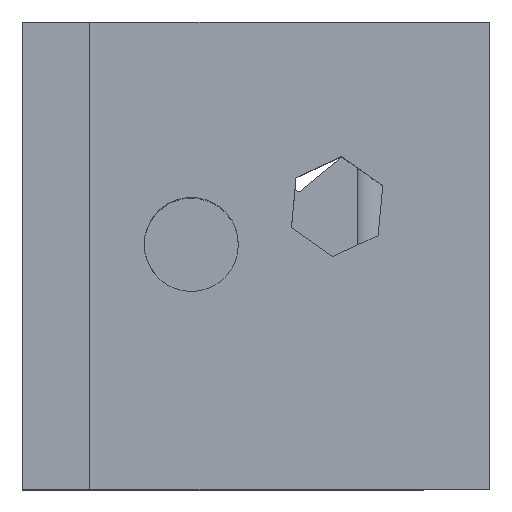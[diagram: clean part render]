
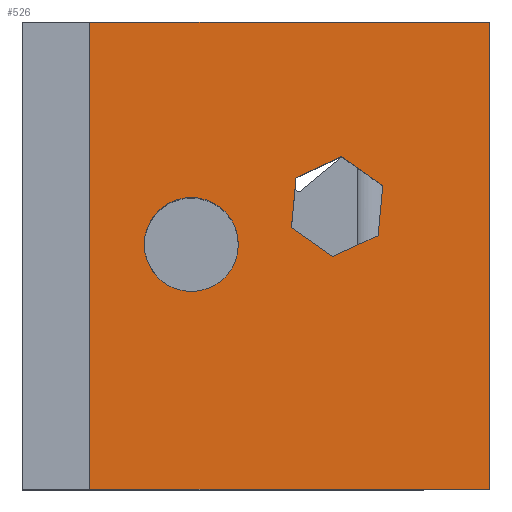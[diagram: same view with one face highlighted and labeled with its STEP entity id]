
A CAD part, top view. The second image highlights one B-rep face of the part: STEP entity #526.
In plain terms, the highlighted planar face has unit normal (0, 0, 1).
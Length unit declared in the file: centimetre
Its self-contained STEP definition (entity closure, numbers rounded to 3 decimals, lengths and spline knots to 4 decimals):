
#4 = EDGE_CURVE ( 'NONE', #1023, #1050, #1174, .T. ) ;
#6 = EDGE_CURVE ( 'NONE', #837, #683, #1181, .T. ) ;
#12 = CIRCLE ( 'NONE', #1061, 100.6563 ) ;
#32 = EDGE_CURVE ( 'NONE', #558, #1023, #86, .T. ) ;
#33 = DIRECTION ( 'NONE',  ( 0., -1., 0. ) ) ;
#58 = EDGE_CURVE ( 'NONE', #598, #870, #95, .T. ) ;
#60 = DIRECTION ( 'NONE',  ( -0.816, 0.578, 0. ) ) ;
#86 = LINE ( 'NONE', #1242, #716 ) ;
#88 = EDGE_CURVE ( 'NONE', #683, #311, #235, .T. ) ;
#95 = LINE ( 'NONE', #1326, #1066 ) ;
#137 = VECTOR ( 'NONE', #1764, 100. ) ;
#141 = VERTEX_POINT ( 'NONE', #786 ) ;
#163 = CARTESIAN_POINT ( 'NONE',  ( 361.5271, 523.8013, 1000. ) ) ;
#182 = DIRECTION ( 'NONE',  ( -0.908, -0.418, 0. ) ) ;
#188 = ORIENTED_EDGE ( 'NONE', *, *, #403, .F. ) ;
#209 = CARTESIAN_POINT ( 'NONE',  ( 575.8645, 560.0563, 1000. ) ) ;
#219 = DIRECTION ( 'NONE',  ( 0., 0., 1. ) ) ;
#235 = LINE ( 'NONE', #1044, #1706 ) ;
#273 = ORIENTED_EDGE ( 'NONE', *, *, #58, .F. ) ;
#274 = DIRECTION ( 'NONE',  ( 0., 1., 0. ) ) ;
#282 = CARTESIAN_POINT ( 'NONE',  ( 144.2003, 1000., 1000. ) ) ;
#304 = CARTESIAN_POINT ( 'NONE',  ( 1000., 1000., 1000. ) ) ;
#311 = VERTEX_POINT ( 'NONE', #605 ) ;
#314 = ORIENTED_EDGE ( 'NONE', *, *, #1802, .F. ) ;
#319 = ORIENTED_EDGE ( 'NONE', *, *, #32, .T. ) ;
#323 = VECTOR ( 'NONE', #1556, 100. ) ;
#330 = CARTESIAN_POINT ( 'NONE',  ( 663.6808, 497.8867, 1000. ) ) ;
#367 = DIRECTION ( 'NONE',  ( -1., 0., 0. ) ) ;
#372 = LINE ( 'NONE', #953, #895 ) ;
#403 = EDGE_CURVE ( 'NONE', #141, #778, #1856, .T. ) ;
#407 = CARTESIAN_POINT ( 'NONE',  ( 585.7969, 667.1922, 1000. ) ) ;
#457 = CARTESIAN_POINT ( 'NONE',  ( 462.1834, 523.8013, 1000. ) ) ;
#483 = DIRECTION ( 'NONE',  ( 0., 0., 1. ) ) ;
#488 = ORIENTED_EDGE ( 'NONE', *, *, #1010, .F. ) ;
#526 = ADVANCED_FACE ( 'NONE', ( #776, #936, #1634 ), #1506, .T. ) ;
#530 = AXIS2_PLACEMENT_3D ( 'NONE', #163, #1298, #761 ) ;
#558 = VERTEX_POINT ( 'NONE', #304 ) ;
#577 = EDGE_CURVE ( 'NONE', #311, #1733, #730, .T. ) ;
#586 = VERTEX_POINT ( 'NONE', #593 ) ;
#593 = CARTESIAN_POINT ( 'NONE',  ( 1000., 0., 1000. ) ) ;
#598 = VERTEX_POINT ( 'NONE', #1699 ) ;
#599 = VECTOR ( 'NONE', #1335, 100. ) ;
#605 = CARTESIAN_POINT ( 'NONE',  ( 761.4294, 542.8531, 1000. ) ) ;
#676 = ORIENTED_EDGE ( 'NONE', *, *, #577, .F. ) ;
#683 = VERTEX_POINT ( 'NONE', #330 ) ;
#716 = VECTOR ( 'NONE', #367, 100. ) ;
#730 = LINE ( 'NONE', #1723, #1700 ) ;
#740 = ORIENTED_EDGE ( 'NONE', *, *, #6, .F. ) ;
#747 = EDGE_LOOP ( 'NONE', ( #676, #1359, #740, #488, #273, #314 ) ) ;
#749 = EDGE_CURVE ( 'NONE', #1050, #586, #1617, .T. ) ;
#761 = DIRECTION ( 'NONE',  ( 1., 0., 0. ) ) ;
#776 = FACE_OUTER_BOUND ( 'NONE', #940, .T. ) ;
#778 = VERTEX_POINT ( 'NONE', #457 ) ;
#782 = CARTESIAN_POINT ( 'NONE',  ( 361.5271, 523.8013, 1000. ) ) ;
#786 = CARTESIAN_POINT ( 'NONE',  ( 260.8707, 523.8013, 1000. ) ) ;
#837 = VERTEX_POINT ( 'NONE', #209 ) ;
#838 = EDGE_CURVE ( 'NONE', #778, #141, #12, .T. ) ;
#868 = DIRECTION ( 'NONE',  ( 0.092, 0.996, 0. ) ) ;
#870 = VERTEX_POINT ( 'NONE', #1819 ) ;
#895 = VECTOR ( 'NONE', #60, 100. ) ;
#903 = CARTESIAN_POINT ( 'NONE',  ( 0., 0., 1000. ) ) ;
#936 = FACE_BOUND ( 'NONE', #747, .T. ) ;
#940 = EDGE_LOOP ( 'NONE', ( #1273, #1772, #1259, #319 ) ) ;
#947 = DIRECTION ( 'NONE',  ( 0.908, 0.418, 0. ) ) ;
#953 = CARTESIAN_POINT ( 'NONE',  ( 771.3617, 649.989, 1000. ) ) ;
#981 = LINE ( 'NONE', #407, #323 ) ;
#983 = CARTESIAN_POINT ( 'NONE',  ( 1000., 1000., 1000. ) ) ;
#1010 = EDGE_CURVE ( 'NONE', #870, #837, #981, .T. ) ;
#1023 = VERTEX_POINT ( 'NONE', #282 ) ;
#1044 = CARTESIAN_POINT ( 'NONE',  ( 663.6808, 497.8867, 1000. ) ) ;
#1050 = VERTEX_POINT ( 'NONE', #1837 ) ;
#1061 = AXIS2_PLACEMENT_3D ( 'NONE', #782, #483, #1346 ) ;
#1062 = CARTESIAN_POINT ( 'NONE',  ( 0., 0., 1000. ) ) ;
#1066 = VECTOR ( 'NONE', #182, 100. ) ;
#1079 = EDGE_LOOP ( 'NONE', ( #1251, #188 ) ) ;
#1166 = CARTESIAN_POINT ( 'NONE',  ( 771.3617, 649.989, 1000. ) ) ;
#1174 = LINE ( 'NONE', #1324, #1851 ) ;
#1181 = LINE ( 'NONE', #1761, #137 ) ;
#1242 = CARTESIAN_POINT ( 'NONE',  ( 0., 1000., 1000. ) ) ;
#1251 = ORIENTED_EDGE ( 'NONE', *, *, #838, .F. ) ;
#1257 = EDGE_CURVE ( 'NONE', #586, #558, #1840, .T. ) ;
#1259 = ORIENTED_EDGE ( 'NONE', *, *, #1257, .T. ) ;
#1273 = ORIENTED_EDGE ( 'NONE', *, *, #4, .T. ) ;
#1274 = VECTOR ( 'NONE', #274, 100. ) ;
#1298 = DIRECTION ( 'NONE',  ( 0., 0., 1. ) ) ;
#1302 = AXIS2_PLACEMENT_3D ( 'NONE', #1062, #219, #1642 ) ;
#1324 = CARTESIAN_POINT ( 'NONE',  ( 144.2003, 1000., 1000. ) ) ;
#1326 = CARTESIAN_POINT ( 'NONE',  ( 683.5454, 712.1586, 1000. ) ) ;
#1335 = DIRECTION ( 'NONE',  ( 1., 0., 0. ) ) ;
#1346 = DIRECTION ( 'NONE',  ( 1., 0., 0. ) ) ;
#1359 = ORIENTED_EDGE ( 'NONE', *, *, #88, .F. ) ;
#1506 = PLANE ( 'NONE',  #1302 ) ;
#1556 = DIRECTION ( 'NONE',  ( -0.092, -0.996, 0. ) ) ;
#1617 = LINE ( 'NONE', #903, #599 ) ;
#1634 = FACE_BOUND ( 'NONE', #1079, .T. ) ;
#1642 = DIRECTION ( 'NONE',  ( 1., 0., 0. ) ) ;
#1699 = CARTESIAN_POINT ( 'NONE',  ( 683.5454, 712.1586, 1000. ) ) ;
#1700 = VECTOR ( 'NONE', #868, 100. ) ;
#1706 = VECTOR ( 'NONE', #947, 100. ) ;
#1723 = CARTESIAN_POINT ( 'NONE',  ( 761.4294, 542.8531, 1000. ) ) ;
#1733 = VERTEX_POINT ( 'NONE', #1166 ) ;
#1761 = CARTESIAN_POINT ( 'NONE',  ( 575.8645, 560.0563, 1000. ) ) ;
#1764 = DIRECTION ( 'NONE',  ( 0.816, -0.578, 0. ) ) ;
#1772 = ORIENTED_EDGE ( 'NONE', *, *, #749, .T. ) ;
#1802 = EDGE_CURVE ( 'NONE', #1733, #598, #372, .T. ) ;
#1819 = CARTESIAN_POINT ( 'NONE',  ( 585.7969, 667.1922, 1000. ) ) ;
#1837 = CARTESIAN_POINT ( 'NONE',  ( 144.2003, 0., 1000. ) ) ;
#1840 = LINE ( 'NONE', #983, #1274 ) ;
#1851 = VECTOR ( 'NONE', #33, 100. ) ;
#1856 = CIRCLE ( 'NONE', #530, 100.6563 ) ;
